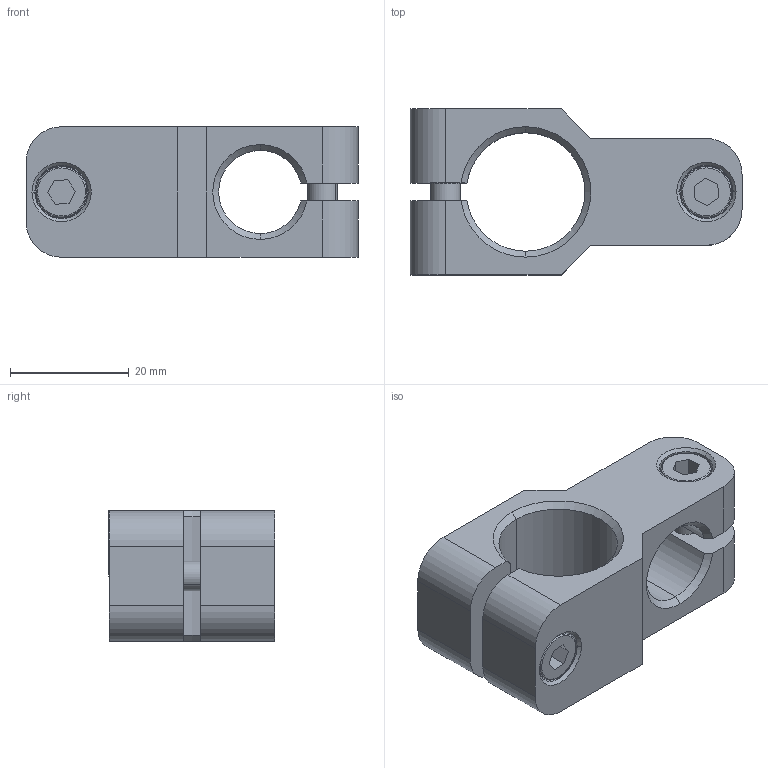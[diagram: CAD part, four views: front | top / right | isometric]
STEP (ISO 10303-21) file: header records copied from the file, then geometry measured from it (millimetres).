
FILE_DESCRIPTION (( 'STEP AP214' ), '1' );
FILE_NAME ('SCD-2014.STEP', '2019-11-07T06:10:57', ( '微软用户' ), ( '微软中国' ), 'SwSTEP 2.0', 'SolidWorks 2016', '' );
FILE_SCHEMA (( 'AUTOMOTIVE_DESIGN' ));
Length unit declared in the file: millimetre
Products named in the file (1): SCD-2014
Bounding box: 56 x 28 x 22 mm (x, y, z)
Volume: 16254.2 mm3; surface area: 9215 mm2
Topology: 5 solids, 5 shells, 488 faces, 1400 edges, 924 vertices
Faces by surface type: plane 422, cylinder 42, cone 20, bspline 4
Entity records: 21762 total; most frequent: CARTESIAN_POINT 3107, DIRECTION 2834, ORIENTED_EDGE 2800, EDGE_CURVE 1400, AXIS2_PLACEMENT_3D 965, VERTEX_POINT 924, VECTOR 904, LINE 904
